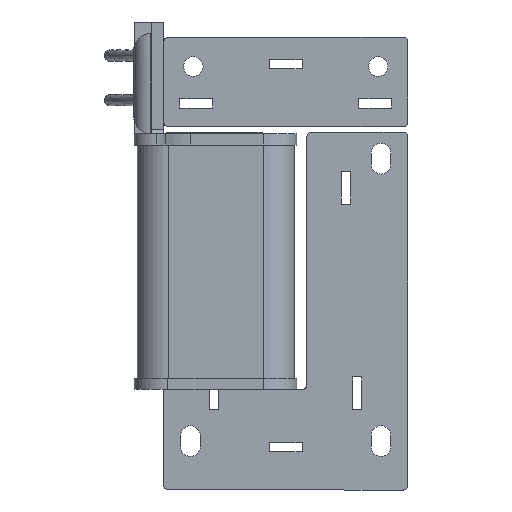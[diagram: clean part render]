
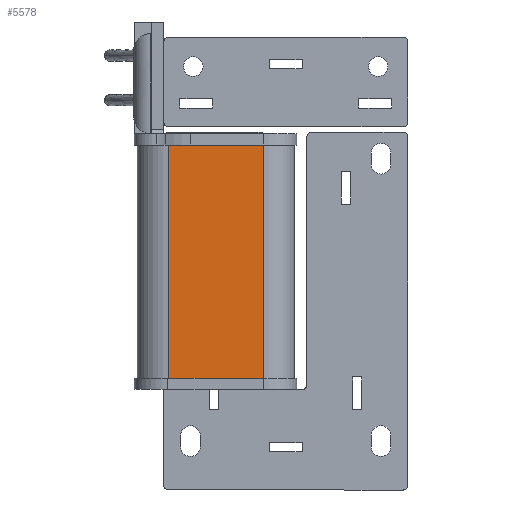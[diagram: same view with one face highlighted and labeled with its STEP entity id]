
A CAD part, front view. The second image highlights one B-rep face of the part: STEP entity #5578.
In plain terms, the highlighted planar face has unit normal (0, -1, 0) as drawn and (-1, 0, 0) by its records, which use the part's own axes.
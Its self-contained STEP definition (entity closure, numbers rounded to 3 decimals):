
#259 = FACE_OUTER_BOUND ( 'NONE', #8427, .T. ) ;
#1760 = LINE ( 'NONE', #2454, #1871 ) ;
#1871 = VECTOR ( 'NONE', #7257, 1000. ) ;
#1938 = AXIS2_PLACEMENT_3D ( 'NONE', #5564, #4192, #3548 ) ;
#2047 = VERTEX_POINT ( 'NONE', #7862 ) ;
#2270 = PLANE ( 'NONE',  #1938 ) ;
#2454 = CARTESIAN_POINT ( 'NONE',  ( -6.534, 4.25, 10.425 ) ) ;
#2489 = ORIENTED_EDGE ( 'NONE', *, *, #6363, .F. ) ;
#2583 = CARTESIAN_POINT ( 'NONE',  ( -6.534, -4.25, -10.425 ) ) ;
#3548 = DIRECTION ( 'NONE',  ( 0., -1., 0. ) ) ;
#3849 = EDGE_CURVE ( 'NONE', #7699, #8421, #8317, .T. ) ;
#4040 = EDGE_CURVE ( 'NONE', #5827, #2047, #6550, .T. ) ;
#4192 = DIRECTION ( 'NONE',  ( -1., 0., 0. ) ) ;
#4517 = CARTESIAN_POINT ( 'NONE',  ( -6.534, -4.25, -10.425 ) ) ;
#4706 = ORIENTED_EDGE ( 'NONE', *, *, #3849, .T. ) ;
#4798 = ORIENTED_EDGE ( 'NONE', *, *, #7652, .T. ) ;
#4906 = CARTESIAN_POINT ( 'NONE',  ( -6.534, 4.25, 10.425 ) ) ;
#5042 = VECTOR ( 'NONE', #7778, 1000. ) ;
#5277 = DIRECTION ( 'NONE',  ( 0., 0., 1. ) ) ;
#5564 = CARTESIAN_POINT ( 'NONE',  ( -6.534, -4.25, 10.425 ) ) ;
#5578 = ADVANCED_FACE ( 'NONE', ( #259 ), #2270, .T. ) ;
#5827 = VERTEX_POINT ( 'NONE', #4517 ) ;
#5854 = LINE ( 'NONE', #7826, #8091 ) ;
#6363 = EDGE_CURVE ( 'NONE', #2047, #8421, #1760, .T. ) ;
#6550 = LINE ( 'NONE', #2583, #5042 ) ;
#7257 = DIRECTION ( 'NONE',  ( 0., 0., 1. ) ) ;
#7652 = EDGE_CURVE ( 'NONE', #5827, #7699, #5854, .T. ) ;
#7699 = VERTEX_POINT ( 'NONE', #8047 ) ;
#7778 = DIRECTION ( 'NONE',  ( 0., 1., 0. ) ) ;
#7826 = CARTESIAN_POINT ( 'NONE',  ( -6.534, -4.25, 10.425 ) ) ;
#7835 = VECTOR ( 'NONE', #8353, 1000. ) ;
#7862 = CARTESIAN_POINT ( 'NONE',  ( -6.534, 4.25, -10.425 ) ) ;
#8047 = CARTESIAN_POINT ( 'NONE',  ( -6.534, -4.25, 10.425 ) ) ;
#8091 = VECTOR ( 'NONE', #5277, 1000. ) ;
#8234 = CARTESIAN_POINT ( 'NONE',  ( -6.534, -4.25, 10.425 ) ) ;
#8317 = LINE ( 'NONE', #8234, #7835 ) ;
#8353 = DIRECTION ( 'NONE',  ( 0., 1., 0. ) ) ;
#8421 = VERTEX_POINT ( 'NONE', #4906 ) ;
#8427 = EDGE_LOOP ( 'NONE', ( #2489, #8482, #4798, #4706 ) ) ;
#8482 = ORIENTED_EDGE ( 'NONE', *, *, #4040, .F. ) ;
